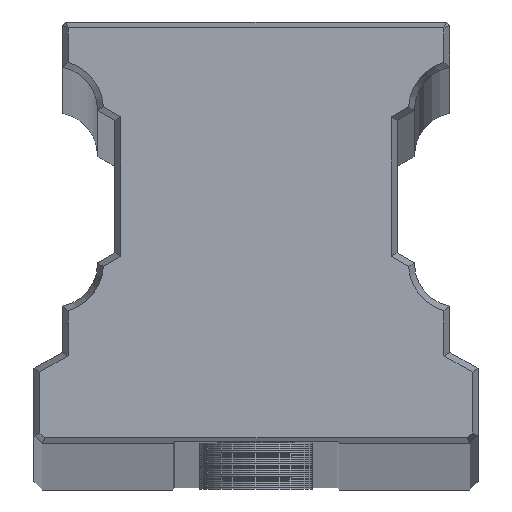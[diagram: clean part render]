
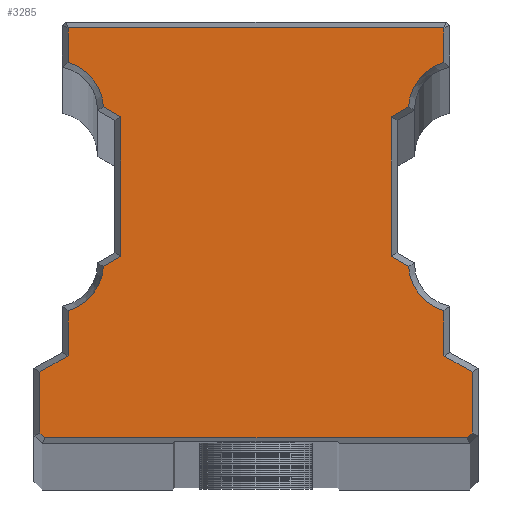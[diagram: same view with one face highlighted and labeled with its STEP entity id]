
A CAD part, top view. The second image highlights one B-rep face of the part: STEP entity #3285.
In plain terms, the highlighted planar face has unit normal (0, 0, 1).
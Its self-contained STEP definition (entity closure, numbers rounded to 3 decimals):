
#901=DIRECTION('',(1.,0.,0.));
#902=VECTOR('',#901,59.896);
#903=CARTESIAN_POINT('',(-29.948,0.85,0.));
#904=LINE('',#903,#902);
#905=DIRECTION('',(0.707,-0.707,0.));
#906=VECTOR('',#905,0.993);
#907=CARTESIAN_POINT('',(-30.65,1.552,0.));
#908=LINE('',#907,#906);
#909=DIRECTION('',(0.,-1.,0.));
#910=VECTOR('',#909,8.648);
#911=CARTESIAN_POINT('',(-30.65,10.2,0.));
#912=LINE('',#911,#910);
#913=DIRECTION('',(-0.866,-0.5,0.));
#914=VECTOR('',#913,4.619);
#915=CARTESIAN_POINT('',(-26.65,12.509,0.));
#916=LINE('',#915,#914);
#917=DIRECTION('',(0.,-1.,0.));
#918=VECTOR('',#917,6.38);
#919=CARTESIAN_POINT('',(-26.65,18.889,0.));
#920=LINE('',#919,#918);
#921=CARTESIAN_POINT('',(-28.585,25.585,0.));
#922=DIRECTION('',(0.,0.,-1.));
#923=DIRECTION('',(0.998,-0.058,0.));
#924=AXIS2_PLACEMENT_3D('',#921,#922,#923);
#926=DIRECTION('',(-0.866,-0.5,0.));
#927=VECTOR('',#926,2.86);
#928=CARTESIAN_POINT('',(-19.15,26.609,0.));
#929=LINE('',#928,#927);
#930=DIRECTION('',(0.,-1.,0.));
#931=VECTOR('',#930,19.782);
#932=CARTESIAN_POINT('',(-19.15,46.391,0.));
#933=LINE('',#932,#931);
#934=DIRECTION('',(0.866,-0.5,0.));
#935=VECTOR('',#934,2.86);
#936=CARTESIAN_POINT('',(-21.627,47.821,0.));
#937=LINE('',#936,#935);
#938=CARTESIAN_POINT('',(-28.585,47.415,0.));
#939=DIRECTION('',(0.,0.,-1.));
#940=DIRECTION('',(0.278,0.961,0.));
#941=AXIS2_PLACEMENT_3D('',#938,#939,#940);
#943=DIRECTION('',(0.,-1.,0.));
#944=VECTOR('',#943,4.89);
#945=CARTESIAN_POINT('',(-26.651,59.001,
-0.002));
#946=LINE('',#945,#944);
#947=DIRECTION('',(-1.,0.,0.));
#948=VECTOR('',#947,53.303);
#949=CARTESIAN_POINT('',(26.651,59.001,-0.002));
#950=LINE('',#949,#948);
#951=DIRECTION('',(0.,1.,0.));
#952=VECTOR('',#951,4.89);
#953=CARTESIAN_POINT('',(26.65,54.111,0.));
#954=LINE('',#953,#952);
#955=CARTESIAN_POINT('',(28.585,47.415,0.));
#956=DIRECTION('',(0.,0.,-1.));
#957=DIRECTION('',(-0.998,0.058,0.));
#958=AXIS2_PLACEMENT_3D('',#955,#956,#957);
#960=DIRECTION('',(0.866,0.5,0.));
#961=VECTOR('',#960,2.86);
#962=CARTESIAN_POINT('',(19.15,46.391,0.));
#963=LINE('',#962,#961);
#964=DIRECTION('',(0.,1.,0.));
#965=VECTOR('',#964,19.782);
#966=CARTESIAN_POINT('',(19.15,26.609,0.));
#967=LINE('',#966,#965);
#968=DIRECTION('',(-0.866,0.5,0.));
#969=VECTOR('',#968,2.86);
#970=CARTESIAN_POINT('',(21.627,25.179,0.));
#971=LINE('',#970,#969);
#972=CARTESIAN_POINT('',(28.585,25.585,0.));
#973=DIRECTION('',(0.,0.,-1.));
#974=DIRECTION('',(-0.278,-0.961,0.));
#975=AXIS2_PLACEMENT_3D('',#972,#973,#974);
#977=DIRECTION('',(0.,1.,0.));
#978=VECTOR('',#977,6.38);
#979=CARTESIAN_POINT('',(26.65,12.509,0.));
#980=LINE('',#979,#978);
#981=DIRECTION('',(-0.866,0.5,0.));
#982=VECTOR('',#981,4.619);
#983=CARTESIAN_POINT('',(30.65,10.2,0.));
#984=LINE('',#983,#982);
#985=DIRECTION('',(0.,1.,0.));
#986=VECTOR('',#985,8.648);
#987=CARTESIAN_POINT('',(30.65,1.552,0.));
#988=LINE('',#987,#986);
#989=DIRECTION('',(0.707,0.707,0.));
#990=VECTOR('',#989,0.993);
#991=CARTESIAN_POINT('',(29.948,0.85,0.));
#992=LINE('',#991,#990);
#2117=CARTESIAN_POINT('',(-29.948,0.85,0.));
#2118=CARTESIAN_POINT('',(29.948,0.85,0.));
#2119=VERTEX_POINT('',#2117);
#2120=VERTEX_POINT('',#2118);
#2121=CARTESIAN_POINT('',(30.65,1.552,0.));
#2122=VERTEX_POINT('',#2121);
#2123=CARTESIAN_POINT('',(30.65,10.2,0.));
#2124=VERTEX_POINT('',#2123);
#2125=CARTESIAN_POINT('',(26.65,12.509,0.));
#2126=VERTEX_POINT('',#2125);
#2127=CARTESIAN_POINT('',(26.65,18.889,0.));
#2128=VERTEX_POINT('',#2127);
#2129=CARTESIAN_POINT('',(21.627,25.179,0.));
#2130=VERTEX_POINT('',#2129);
#2131=CARTESIAN_POINT('',(19.15,26.609,0.));
#2132=VERTEX_POINT('',#2131);
#2133=CARTESIAN_POINT('',(19.15,46.391,0.));
#2134=VERTEX_POINT('',#2133);
#2135=CARTESIAN_POINT('',(21.627,47.821,0.));
#2136=VERTEX_POINT('',#2135);
#2137=CARTESIAN_POINT('',(26.65,54.111,
0.));
#2138=VERTEX_POINT('',#2137);
#2139=CARTESIAN_POINT('',(26.651,59.001,
-0.002));
#2140=VERTEX_POINT('',#2139);
#2141=CARTESIAN_POINT('',(-26.651,59.001,
-0.002));
#2142=VERTEX_POINT('',#2141);
#2143=CARTESIAN_POINT('',(-26.65,54.111,0.));
#2144=VERTEX_POINT('',#2143);
#2145=CARTESIAN_POINT('',(-21.627,47.821,0.));
#2146=VERTEX_POINT('',#2145);
#2147=CARTESIAN_POINT('',(-19.15,46.391,0.));
#2148=VERTEX_POINT('',#2147);
#2149=CARTESIAN_POINT('',(-19.15,26.609,0.));
#2150=VERTEX_POINT('',#2149);
#2151=CARTESIAN_POINT('',(-21.627,25.179,0.));
#2152=VERTEX_POINT('',#2151);
#2153=CARTESIAN_POINT('',(-26.65,18.889,
0.));
#2154=VERTEX_POINT('',#2153);
#2155=CARTESIAN_POINT('',(-26.65,12.509,0.));
#2156=VERTEX_POINT('',#2155);
#2157=CARTESIAN_POINT('',(-30.65,10.2,0.));
#2158=VERTEX_POINT('',#2157);
#2159=CARTESIAN_POINT('',(-30.65,1.552,0.));
#2160=VERTEX_POINT('',#2159);
#3235=CARTESIAN_POINT('',(0.,0.,0.));
#3236=DIRECTION('',(0.,0.,1.));
#3237=DIRECTION('',(1.,0.,0.));
#3238=AXIS2_PLACEMENT_3D('',#3235,#3236,#3237);
#3239=PLANE('',#3238);
#3241=ORIENTED_EDGE('',*,*,#3240,.F.);
#3243=ORIENTED_EDGE('',*,*,#3242,.F.);
#3245=ORIENTED_EDGE('',*,*,#3244,.F.);
#3247=ORIENTED_EDGE('',*,*,#3246,.F.);
#3249=ORIENTED_EDGE('',*,*,#3248,.F.);
#3251=ORIENTED_EDGE('',*,*,#3250,.F.);
#3253=ORIENTED_EDGE('',*,*,#3252,.F.);
#3255=ORIENTED_EDGE('',*,*,#3254,.F.);
#3257=ORIENTED_EDGE('',*,*,#3256,.F.);
#3259=ORIENTED_EDGE('',*,*,#3258,.F.);
#3260=ORIENTED_EDGE('',*,*,#3225,.F.);
#3262=ORIENTED_EDGE('',*,*,#3261,.F.);
#3264=ORIENTED_EDGE('',*,*,#3263,.F.);
#3266=ORIENTED_EDGE('',*,*,#3265,.F.);
#3268=ORIENTED_EDGE('',*,*,#3267,.F.);
#3270=ORIENTED_EDGE('',*,*,#3269,.F.);
#3272=ORIENTED_EDGE('',*,*,#3271,.F.);
#3274=ORIENTED_EDGE('',*,*,#3273,.F.);
#3276=ORIENTED_EDGE('',*,*,#3275,.F.);
#3278=ORIENTED_EDGE('',*,*,#3277,.F.);
#3280=ORIENTED_EDGE('',*,*,#3279,.F.);
#3282=ORIENTED_EDGE('',*,*,#3281,.F.);
#3283=EDGE_LOOP('',(#3241,#3243,#3245,#3247,#3249,#3251,#3253,#3255,#3257,#3259,
#3260,#3262,#3264,#3266,#3268,#3270,#3272,#3274,#3276,#3278,#3280,#3282));
#3284=FACE_OUTER_BOUND('',#3283,.F.);
#925=CIRCLE('',#924,6.97);
#942=CIRCLE('',#941,6.97);
#959=CIRCLE('',#958,6.97);
#976=CIRCLE('',#975,6.97);
#3225=EDGE_CURVE('',#2142,#2144,#946,.T.);
#3240=EDGE_CURVE('',#2119,#2120,#904,.T.);
#3242=EDGE_CURVE('',#2160,#2119,#908,.T.);
#3244=EDGE_CURVE('',#2158,#2160,#912,.T.);
#3246=EDGE_CURVE('',#2156,#2158,#916,.T.);
#3248=EDGE_CURVE('',#2154,#2156,#920,.T.);
#3250=EDGE_CURVE('',#2152,#2154,#925,.T.);
#3252=EDGE_CURVE('',#2150,#2152,#929,.T.);
#3254=EDGE_CURVE('',#2148,#2150,#933,.T.);
#3256=EDGE_CURVE('',#2146,#2148,#937,.T.);
#3258=EDGE_CURVE('',#2144,#2146,#942,.T.);
#3261=EDGE_CURVE('',#2140,#2142,#950,.T.);
#3263=EDGE_CURVE('',#2138,#2140,#954,.T.);
#3265=EDGE_CURVE('',#2136,#2138,#959,.T.);
#3267=EDGE_CURVE('',#2134,#2136,#963,.T.);
#3269=EDGE_CURVE('',#2132,#2134,#967,.T.);
#3271=EDGE_CURVE('',#2130,#2132,#971,.T.);
#3273=EDGE_CURVE('',#2128,#2130,#976,.T.);
#3275=EDGE_CURVE('',#2126,#2128,#980,.T.);
#3277=EDGE_CURVE('',#2124,#2126,#984,.T.);
#3279=EDGE_CURVE('',#2122,#2124,#988,.T.);
#3281=EDGE_CURVE('',#2120,#2122,#992,.T.);
#3285=ADVANCED_FACE('',(#3284),#3239,.T.);
